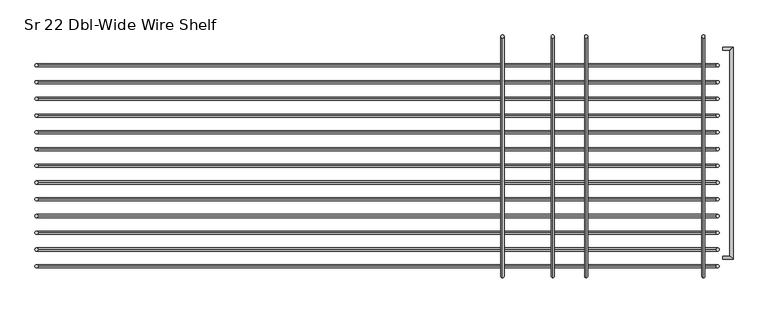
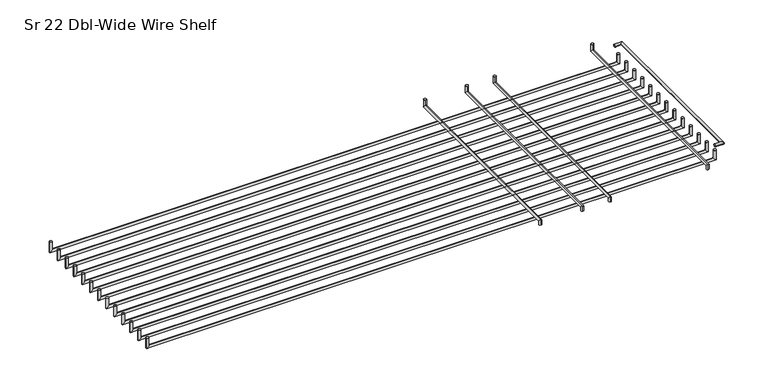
"""IFC4 building model written with IfcOpenShell, lengths in millimetres: furniture geometry, HermanMiller_Carts_CT521_CartShelf : Sr 22 Dbl-Wide Wire Shelf."""

from ifc_helpers import new_model, si_unit, frame, origin, place, context, project, spatial, circle_curve, ellipse_curve, source, transform, mapped, element, save
from ifc_brep_helpers import plane_surface, cylinder_surface, advanced_brep


def sr_22_dbl_wide_wire_shelf_5bae1492(model_context):
    return source(origin(), model_context, "Body", "AdvancedBrep", [
        advanced_brep(
        [(743.3373883, -178.26736, 2470.9501), (743.3373883, -183.04256, 2470.9501), (743.3373883, 133.81736, 2470.9501), (743.3373883, 138.59256, 2470.9501), (759.2123883, -183.04256, 2470.9501), (754.4371883, -178.26736, 2470.9501), (759.2123883, 138.59256, 2470.9501), (754.4371883, 133.81736, 2470.9501)],
        [
            (0, 1, circle_curve(frame((743.3373883, -180.65496, 2470.9501), z_axis=(-1.0, 0.0, 0.0), x_axis=(0.0, -1.0, 0.0)), 2.3876)),
            (1, 0, circle_curve(frame((743.3373883, -180.65496, 2470.9501), z_axis=(-1.0, 0.0, 0.0), x_axis=(0.0, -1.0, 0.0)), 2.3876)),
            (2, 3, circle_curve(frame((743.3373883, 136.20496, 2470.9501), z_axis=(-1.0, 0.0, 0.0), x_axis=(0.0, 1.0, 0.0)), 2.3876)),
            (3, 2, circle_curve(frame((743.3373883, 136.20496, 2470.9501), z_axis=(-1.0, 0.0, 0.0), x_axis=(0.0, 1.0, 0.0)), 2.3876)),
            (1, 4),
            (4, 5, ellipse_curve(frame((756.8247883, -180.65496, 2470.9501), z_axis=(-0.7071067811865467, -0.7071067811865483, 0.0), x_axis=(-0.7071067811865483, 0.7071067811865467, 0.0)), 3.3765763, 2.3876)),
            (5, 0),
            (5, 4, ellipse_curve(frame((756.8247883, -180.65496, 2470.9501), z_axis=(-0.7071067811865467, -0.7071067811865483, 0.0), x_axis=(-0.7071067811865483, 0.7071067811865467, 0.0)), 3.3765763, 2.3876)),
            (4, 6),
            (6, 7, ellipse_curve(frame((756.8247883, 136.20496, 2470.9501), z_axis=(0.7071067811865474, -0.7071067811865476, 0.0), x_axis=(-0.7071067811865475, -0.7071067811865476, 0.0)), 3.3765763, 2.3876)),
            (7, 5),
            (7, 6, ellipse_curve(frame((756.8247883, 136.20496, 2470.9501), z_axis=(0.7071067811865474, -0.7071067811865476, 0.0), x_axis=(-0.7071067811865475, -0.7071067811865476, 0.0)), 3.3765763, 2.3876)),
            (6, 3),
            (2, 7),
        ],
        [
            plane_surface(frame((743.3373883, -180.65496, 2470.9501), z_axis=(-1.0, 0.0, 0.0), x_axis=(0.0, 0.0, 1.0))),
            plane_surface(frame((743.3373883, 136.20496, 2470.9501), z_axis=(-1.0, 0.0, 0.0), x_axis=(0.0, 0.0, 1.0))),
            cylinder_surface(frame((743.3373883, -180.65496, 2470.9501), z_axis=(-1.0, 0.0, 0.0), x_axis=(0.0, -1.0, 0.0)), 2.3876),
            cylinder_surface(frame((756.8247883, -180.65496, 2470.9501), z_axis=(0.0, -1.0, 0.0), x_axis=(1.0, 0.0, 0.0)), 2.3876),
            cylinder_surface(frame((756.8247883, 136.20496, 2470.9501), z_axis=(1.0, 0.0, 0.0), x_axis=(0.0, 1.0, 0.0)), 2.3876),
        ],
        [
            (0, [[1, 2]]),
            (1, [[3, 4]]),
            (2, [[5, 6, 7, -2]]),
            (2, [[-7, 8, -5, -1]]),
            (3, [[9, 10, 11, -6]]),
            (3, [[-11, 12, -9, -8]]),
            (4, [[13, -3, 14, -10]]),
            (4, [[-14, -4, -13, -12]]),
        ],
    ),
        advanced_brep(
        [(733.4732983, 34.925, 2473.3377), (738.2357983, 34.925, 2473.3377), (733.4732983, 34.925, 2458.0596), (738.2357983, 34.925, 2453.2971), (-295.1886017, 34.925, 2458.0596), (-299.9511017, 34.925, 2453.2971), (-295.1886017, 34.925, 2473.3377), (-299.9511017, 34.925, 2473.3377)],
        [
            (0, 1, circle_curve(frame((735.8545483, 34.925, 2473.3377), z_axis=(0.0, 0.0, 1.0), x_axis=(1.0, 0.0, 0.0)), 2.38125)),
            (1, 0, circle_curve(frame((735.8545483, 34.925, 2473.3377), z_axis=(0.0, 0.0, 1.0), x_axis=(1.0, 0.0, 0.0)), 2.38125)),
            (0, 2),
            (2, 3, ellipse_curve(frame((735.8545483, 34.925, 2455.67835), z_axis=(0.7071067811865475, 0.0, 0.7071067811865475), x_axis=(-0.7071067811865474, 0.0, 0.7071067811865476)), 3.367596, 2.38125)),
            (3, 1),
            (3, 2, ellipse_curve(frame((735.8545483, 34.925, 2455.67835), z_axis=(0.7071067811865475, 0.0, 0.7071067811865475), x_axis=(-0.7071067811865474, 0.0, 0.7071067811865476)), 3.367596, 2.38125)),
            (2, 4),
            (4, 5, ellipse_curve(frame((-297.5698517, 34.925, 2455.67835), z_axis=(0.7071067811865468, 0.0, -0.7071067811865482), x_axis=(0.7071067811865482, 0.0, 0.7071067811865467)), 3.367596, 2.38125)),
            (5, 3),
            (5, 4, ellipse_curve(frame((-297.5698517, 34.925, 2455.67835), z_axis=(0.7071067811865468, 0.0, -0.7071067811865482), x_axis=(0.7071067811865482, 0.0, 0.7071067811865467)), 3.367596, 2.38125)),
            (6, 7, circle_curve(frame((-297.5698517, 34.925, 2473.3377), z_axis=(0.0, 0.0, 1.0), x_axis=(-1.0, 0.0, 0.0)), 2.38125)),
            (7, 6, circle_curve(frame((-297.5698517, 34.925, 2473.3377), z_axis=(0.0, 0.0, 1.0), x_axis=(-1.0, 0.0, 0.0)), 2.38125)),
            (4, 6),
            (7, 5),
        ],
        [
            plane_surface(frame((735.8545483, 34.925, 2473.3377), z_axis=(0.0, 0.0, 1.0), x_axis=(0.0, -1.0, 0.0))),
            cylinder_surface(frame((735.8545483, 34.925, 2473.3377), z_axis=(0.0, 0.0, 1.0), x_axis=(1.0, 0.0, 0.0)), 2.38125),
            cylinder_surface(frame((735.8545483, 34.925, 2455.67835), z_axis=(1.0, 0.0, 0.0), x_axis=(0.0, 0.0, -1.0)), 2.38125),
            plane_surface(frame((-297.5698517, 34.925, 2473.3377), z_axis=(0.0, 0.0, 1.0), x_axis=(0.0, -1.0, 0.0))),
            cylinder_surface(frame((-297.5698517, 34.925, 2455.67835), z_axis=(0.0, 0.0, -1.0), x_axis=(-1.0, 0.0, 0.0)), 2.38125),
        ],
        [
            (0, [[1, 2]]),
            (1, [[-1, 3, 4, 5]]),
            (1, [[-2, -5, 6, -3]]),
            (2, [[-4, 7, 8, 9]]),
            (2, [[-6, -9, 10, -7]]),
            (3, [[11, 12]]),
            (4, [[-8, 13, -12, 14]]),
            (4, [[-10, -14, -11, -13]]),
        ],
    ),
        advanced_brep(
        [(733.4732983, -15.875, 2473.3377), (738.2357983, -15.875, 2473.3377), (733.4732983, -15.875, 2458.0596), (738.2357983, -15.875, 2453.2971), (-295.1886017, -15.875, 2458.0596), (-299.9511017, -15.875, 2453.2971), (-295.1886017, -15.875, 2473.3377), (-299.9511017, -15.875, 2473.3377)],
        [
            (0, 1, circle_curve(frame((735.8545483, -15.875, 2473.3377), z_axis=(0.0, 0.0, 1.0), x_axis=(1.0, 0.0, 0.0)), 2.38125)),
            (1, 0, circle_curve(frame((735.8545483, -15.875, 2473.3377), z_axis=(0.0, 0.0, 1.0), x_axis=(1.0, 0.0, 0.0)), 2.38125)),
            (0, 2),
            (2, 3, ellipse_curve(frame((735.8545483, -15.875, 2455.67835), z_axis=(0.7071067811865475, 0.0, 0.7071067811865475), x_axis=(-0.7071067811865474, 0.0, 0.7071067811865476)), 3.367596, 2.38125)),
            (3, 1),
            (3, 2, ellipse_curve(frame((735.8545483, -15.875, 2455.67835), z_axis=(0.7071067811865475, 0.0, 0.7071067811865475), x_axis=(-0.7071067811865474, 0.0, 0.7071067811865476)), 3.367596, 2.38125)),
            (2, 4),
            (4, 5, ellipse_curve(frame((-297.5698517, -15.875, 2455.67835), z_axis=(0.7071067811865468, 0.0, -0.7071067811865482), x_axis=(0.7071067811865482, 0.0, 0.7071067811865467)), 3.367596, 2.38125)),
            (5, 3),
            (5, 4, ellipse_curve(frame((-297.5698517, -15.875, 2455.67835), z_axis=(0.7071067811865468, 0.0, -0.7071067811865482), x_axis=(0.7071067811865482, 0.0, 0.7071067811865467)), 3.367596, 2.38125)),
            (6, 7, circle_curve(frame((-297.5698517, -15.875, 2473.3377), z_axis=(0.0, 0.0, 1.0), x_axis=(-1.0, 0.0, 0.0)), 2.38125)),
            (7, 6, circle_curve(frame((-297.5698517, -15.875, 2473.3377), z_axis=(0.0, 0.0, 1.0), x_axis=(-1.0, 0.0, 0.0)), 2.38125)),
            (4, 6),
            (7, 5),
        ],
        [
            plane_surface(frame((735.8545483, -15.875, 2473.3377), z_axis=(0.0, 0.0, 1.0), x_axis=(0.0, -1.0, 0.0))),
            cylinder_surface(frame((735.8545483, -15.875, 2473.3377), z_axis=(0.0, 0.0, 1.0), x_axis=(1.0, 0.0, 0.0)), 2.38125),
            cylinder_surface(frame((735.8545483, -15.875, 2455.67835), z_axis=(1.0, 0.0, 0.0), x_axis=(0.0, 0.0, -1.0)), 2.38125),
            plane_surface(frame((-297.5698517, -15.875, 2473.3377), z_axis=(0.0, 0.0, 1.0), x_axis=(0.0, -1.0, 0.0))),
            cylinder_surface(frame((-297.5698517, -15.875, 2455.67835), z_axis=(0.0, 0.0, -1.0), x_axis=(-1.0, 0.0, 0.0)), 2.38125),
        ],
        [
            (0, [[1, 2]]),
            (1, [[-1, 3, 4, 5]]),
            (1, [[-2, -5, 6, -3]]),
            (2, [[-4, 7, 8, 9]]),
            (2, [[-6, -9, 10, -7]]),
            (3, [[11, 12]]),
            (4, [[-8, 13, -12, 14]]),
            (4, [[-10, -14, -11, -13]]),
        ],
    ),
        advanced_brep(
        [(733.4732983, -66.675, 2473.3377), (738.2357983, -66.675, 2473.3377), (733.4732983, -66.675, 2458.0596), (738.2357983, -66.675, 2453.2971), (-295.1886017, -66.675, 2458.0596), (-299.9511017, -66.675, 2453.2971), (-295.1886017, -66.675, 2473.3377), (-299.9511017, -66.675, 2473.3377)],
        [
            (0, 1, circle_curve(frame((735.8545483, -66.675, 2473.3377), z_axis=(0.0, 0.0, 1.0), x_axis=(1.0, 0.0, 0.0)), 2.38125)),
            (1, 0, circle_curve(frame((735.8545483, -66.675, 2473.3377), z_axis=(0.0, 0.0, 1.0), x_axis=(1.0, 0.0, 0.0)), 2.38125)),
            (0, 2),
            (2, 3, ellipse_curve(frame((735.8545483, -66.675, 2455.67835), z_axis=(0.7071067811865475, 0.0, 0.7071067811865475), x_axis=(-0.7071067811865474, 0.0, 0.7071067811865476)), 3.367596, 2.38125)),
            (3, 1),
            (3, 2, ellipse_curve(frame((735.8545483, -66.675, 2455.67835), z_axis=(0.7071067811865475, 0.0, 0.7071067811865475), x_axis=(-0.7071067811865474, 0.0, 0.7071067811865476)), 3.367596, 2.38125)),
            (2, 4),
            (4, 5, ellipse_curve(frame((-297.5698517, -66.675, 2455.67835), z_axis=(0.7071067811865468, 0.0, -0.7071067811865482), x_axis=(0.7071067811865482, 0.0, 0.7071067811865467)), 3.367596, 2.38125)),
            (5, 3),
            (5, 4, ellipse_curve(frame((-297.5698517, -66.675, 2455.67835), z_axis=(0.7071067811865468, 0.0, -0.7071067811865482), x_axis=(0.7071067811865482, 0.0, 0.7071067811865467)), 3.367596, 2.38125)),
            (6, 7, circle_curve(frame((-297.5698517, -66.675, 2473.3377), z_axis=(0.0, 0.0, 1.0), x_axis=(-1.0, 0.0, 0.0)), 2.38125)),
            (7, 6, circle_curve(frame((-297.5698517, -66.675, 2473.3377), z_axis=(0.0, 0.0, 1.0), x_axis=(-1.0, 0.0, 0.0)), 2.38125)),
            (4, 6),
            (7, 5),
        ],
        [
            plane_surface(frame((735.8545483, -66.675, 2473.3377), z_axis=(0.0, 0.0, 1.0), x_axis=(0.0, -1.0, 0.0))),
            cylinder_surface(frame((735.8545483, -66.675, 2473.3377), z_axis=(0.0, 0.0, 1.0), x_axis=(1.0, 0.0, 0.0)), 2.38125),
            cylinder_surface(frame((735.8545483, -66.675, 2455.67835), z_axis=(1.0, 0.0, 0.0), x_axis=(0.0, 0.0, -1.0)), 2.38125),
            plane_surface(frame((-297.5698517, -66.675, 2473.3377), z_axis=(0.0, 0.0, 1.0), x_axis=(0.0, -1.0, 0.0))),
            cylinder_surface(frame((-297.5698517, -66.675, 2455.67835), z_axis=(0.0, 0.0, -1.0), x_axis=(-1.0, 0.0, 0.0)), 2.38125),
        ],
        [
            (0, [[1, 2]]),
            (1, [[-1, 3, 4, 5]]),
            (1, [[-2, -5, 6, -3]]),
            (2, [[-4, 7, 8, 9]]),
            (2, [[-6, -9, 10, -7]]),
            (3, [[11, 12]]),
            (4, [[-8, 13, -12, 14]]),
            (4, [[-10, -14, -11, -13]]),
        ],
    ),
        advanced_brep(
        [(733.4732983, -117.475, 2473.3377), (738.2357983, -117.475, 2473.3377), (733.4732983, -117.475, 2458.0596), (738.2357983, -117.475, 2453.2971), (-295.1886017, -117.475, 2458.0596), (-299.9511017, -117.475, 2453.2971), (-295.1886017, -117.475, 2473.3377), (-299.9511017, -117.475, 2473.3377)],
        [
            (0, 1, circle_curve(frame((735.8545483, -117.475, 2473.3377), z_axis=(0.0, 0.0, 1.0), x_axis=(1.0, 0.0, 0.0)), 2.38125)),
            (1, 0, circle_curve(frame((735.8545483, -117.475, 2473.3377), z_axis=(0.0, 0.0, 1.0), x_axis=(1.0, 0.0, 0.0)), 2.38125)),
            (0, 2),
            (2, 3, ellipse_curve(frame((735.8545483, -117.475, 2455.67835), z_axis=(0.7071067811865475, 0.0, 0.7071067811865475), x_axis=(-0.7071067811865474, 0.0, 0.7071067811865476)), 3.367596, 2.38125)),
            (3, 1),
            (3, 2, ellipse_curve(frame((735.8545483, -117.475, 2455.67835), z_axis=(0.7071067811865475, 0.0, 0.7071067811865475), x_axis=(-0.7071067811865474, 0.0, 0.7071067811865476)), 3.367596, 2.38125)),
            (2, 4),
            (4, 5, ellipse_curve(frame((-297.5698517, -117.475, 2455.67835), z_axis=(0.7071067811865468, 0.0, -0.7071067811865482), x_axis=(0.7071067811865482, 0.0, 0.7071067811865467)), 3.367596, 2.38125)),
            (5, 3),
            (5, 4, ellipse_curve(frame((-297.5698517, -117.475, 2455.67835), z_axis=(0.7071067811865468, 0.0, -0.7071067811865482), x_axis=(0.7071067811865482, 0.0, 0.7071067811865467)), 3.367596, 2.38125)),
            (6, 7, circle_curve(frame((-297.5698517, -117.475, 2473.3377), z_axis=(0.0, 0.0, 1.0), x_axis=(-1.0, 0.0, 0.0)), 2.38125)),
            (7, 6, circle_curve(frame((-297.5698517, -117.475, 2473.3377), z_axis=(0.0, 0.0, 1.0), x_axis=(-1.0, 0.0, 0.0)), 2.38125)),
            (4, 6),
            (7, 5),
        ],
        [
            plane_surface(frame((735.8545483, -117.475, 2473.3377), z_axis=(0.0, 0.0, 1.0), x_axis=(0.0, -1.0, 0.0))),
            cylinder_surface(frame((735.8545483, -117.475, 2473.3377), z_axis=(0.0, 0.0, 1.0), x_axis=(1.0, 0.0, 0.0)), 2.38125),
            cylinder_surface(frame((735.8545483, -117.475, 2455.67835), z_axis=(1.0, 0.0, 0.0), x_axis=(0.0, 0.0, -1.0)), 2.38125),
            plane_surface(frame((-297.5698517, -117.475, 2473.3377), z_axis=(0.0, 0.0, 1.0), x_axis=(0.0, -1.0, 0.0))),
            cylinder_surface(frame((-297.5698517, -117.475, 2455.67835), z_axis=(0.0, 0.0, -1.0), x_axis=(-1.0, 0.0, 0.0)), 2.38125),
        ],
        [
            (0, [[1, 2]]),
            (1, [[-1, 3, 4, 5]]),
            (1, [[-2, -5, 6, -3]]),
            (2, [[-4, 7, 8, 9]]),
            (2, [[-6, -9, 10, -7]]),
            (3, [[11, 12]]),
            (4, [[-8, 13, -12, 14]]),
            (4, [[-10, -14, -11, -13]]),
        ],
    ),
        advanced_brep(
        [(733.4732983, -168.275, 2473.3377), (738.2357983, -168.275, 2473.3377), (733.4732983, -168.275, 2458.0596), (738.2357983, -168.275, 2453.2971), (-295.1886017, -168.275, 2458.0596), (-299.9511017, -168.275, 2453.2971), (-295.1886017, -168.275, 2473.3377), (-299.9511017, -168.275, 2473.3377)],
        [
            (0, 1, circle_curve(frame((735.8545483, -168.275, 2473.3377), z_axis=(0.0, 0.0, 1.0), x_axis=(1.0, 0.0, 0.0)), 2.38125)),
            (1, 0, circle_curve(frame((735.8545483, -168.275, 2473.3377), z_axis=(0.0, 0.0, 1.0), x_axis=(1.0, 0.0, 0.0)), 2.38125)),
            (0, 2),
            (2, 3, ellipse_curve(frame((735.8545483, -168.275, 2455.67835), z_axis=(0.7071067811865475, 0.0, 0.7071067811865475), x_axis=(-0.7071067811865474, 0.0, 0.7071067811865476)), 3.367596, 2.38125)),
            (3, 1),
            (3, 2, ellipse_curve(frame((735.8545483, -168.275, 2455.67835), z_axis=(0.7071067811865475, 0.0, 0.7071067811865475), x_axis=(-0.7071067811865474, 0.0, 0.7071067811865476)), 3.367596, 2.38125)),
            (2, 4),
            (4, 5, ellipse_curve(frame((-297.5698517, -168.275, 2455.67835), z_axis=(0.7071067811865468, 0.0, -0.7071067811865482), x_axis=(0.7071067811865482, 0.0, 0.7071067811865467)), 3.367596, 2.38125)),
            (5, 3),
            (5, 4, ellipse_curve(frame((-297.5698517, -168.275, 2455.67835), z_axis=(0.7071067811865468, 0.0, -0.7071067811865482), x_axis=(0.7071067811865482, 0.0, 0.7071067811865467)), 3.367596, 2.38125)),
            (6, 7, circle_curve(frame((-297.5698517, -168.275, 2473.3377), z_axis=(0.0, 0.0, 1.0), x_axis=(-1.0, 0.0, 0.0)), 2.38125)),
            (7, 6, circle_curve(frame((-297.5698517, -168.275, 2473.3377), z_axis=(0.0, 0.0, 1.0), x_axis=(-1.0, 0.0, 0.0)), 2.38125)),
            (4, 6),
            (7, 5),
        ],
        [
            plane_surface(frame((735.8545483, -168.275, 2473.3377), z_axis=(0.0, 0.0, 1.0), x_axis=(0.0, -1.0, 0.0))),
            cylinder_surface(frame((735.8545483, -168.275, 2473.3377), z_axis=(0.0, 0.0, 1.0), x_axis=(1.0, 0.0, 0.0)), 2.38125),
            cylinder_surface(frame((735.8545483, -168.275, 2455.67835), z_axis=(1.0, 0.0, 0.0), x_axis=(0.0, 0.0, -1.0)), 2.38125),
            plane_surface(frame((-297.5698517, -168.275, 2473.3377), z_axis=(0.0, 0.0, 1.0), x_axis=(0.0, -1.0, 0.0))),
            cylinder_surface(frame((-297.5698517, -168.275, 2455.67835), z_axis=(0.0, 0.0, -1.0), x_axis=(-1.0, 0.0, 0.0)), 2.38125),
        ],
        [
            (0, [[1, 2]]),
            (1, [[-1, 3, 4, 5]]),
            (1, [[-2, -5, 6, -3]]),
            (2, [[-4, 7, 8, 9]]),
            (2, [[-6, -9, 10, -7]]),
            (3, [[11, 12]]),
            (4, [[-8, 13, -12, 14]]),
            (4, [[-10, -14, -11, -13]]),
        ],
    ),
        advanced_brep(
        [(733.4732983, -193.675, 2473.3377), (738.2357983, -193.675, 2473.3377), (733.4732983, -193.675, 2458.0596), (738.2357983, -193.675, 2453.2971), (-295.1886017, -193.675, 2458.0596), (-299.9511017, -193.675, 2453.2971), (-295.1886017, -193.675, 2473.3377), (-299.9511017, -193.675, 2473.3377)],
        [
            (0, 1, circle_curve(frame((735.8545483, -193.675, 2473.3377), z_axis=(0.0, 0.0, 1.0), x_axis=(1.0, 0.0, 0.0)), 2.38125)),
            (1, 0, circle_curve(frame((735.8545483, -193.675, 2473.3377), z_axis=(0.0, 0.0, 1.0), x_axis=(1.0, 0.0, 0.0)), 2.38125)),
            (0, 2),
            (2, 3, ellipse_curve(frame((735.8545483, -193.675, 2455.67835), z_axis=(0.7071067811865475, 0.0, 0.7071067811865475), x_axis=(-0.7071067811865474, 0.0, 0.7071067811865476)), 3.367596, 2.38125)),
            (3, 1),
            (3, 2, ellipse_curve(frame((735.8545483, -193.675, 2455.67835), z_axis=(0.7071067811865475, 0.0, 0.7071067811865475), x_axis=(-0.7071067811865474, 0.0, 0.7071067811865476)), 3.367596, 2.38125)),
            (2, 4),
            (4, 5, ellipse_curve(frame((-297.5698517, -193.675, 2455.67835), z_axis=(0.7071067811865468, 0.0, -0.7071067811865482), x_axis=(0.7071067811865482, 0.0, 0.7071067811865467)), 3.367596, 2.38125)),
            (5, 3),
            (5, 4, ellipse_curve(frame((-297.5698517, -193.675, 2455.67835), z_axis=(0.7071067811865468, 0.0, -0.7071067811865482), x_axis=(0.7071067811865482, 0.0, 0.7071067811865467)), 3.367596, 2.38125)),
            (6, 7, circle_curve(frame((-297.5698517, -193.675, 2473.3377), z_axis=(0.0, 0.0, 1.0), x_axis=(-1.0, 0.0, 0.0)), 2.38125)),
            (7, 6, circle_curve(frame((-297.5698517, -193.675, 2473.3377), z_axis=(0.0, 0.0, 1.0), x_axis=(-1.0, 0.0, 0.0)), 2.38125)),
            (4, 6),
            (7, 5),
        ],
        [
            plane_surface(frame((735.8545483, -193.675, 2473.3377), z_axis=(0.0, 0.0, 1.0), x_axis=(0.0, -1.0, 0.0))),
            cylinder_surface(frame((735.8545483, -193.675, 2473.3377), z_axis=(0.0, 0.0, 1.0), x_axis=(1.0, 0.0, 0.0)), 2.38125),
            cylinder_surface(frame((735.8545483, -193.675, 2455.67835), z_axis=(1.0, 0.0, 0.0), x_axis=(0.0, 0.0, -1.0)), 2.38125),
            plane_surface(frame((-297.5698517, -193.675, 2473.3377), z_axis=(0.0, 0.0, 1.0), x_axis=(0.0, -1.0, 0.0))),
            cylinder_surface(frame((-297.5698517, -193.675, 2455.67835), z_axis=(0.0, 0.0, -1.0), x_axis=(-1.0, 0.0, 0.0)), 2.38125),
        ],
        [
            (0, [[1, 2]]),
            (1, [[-1, 3, 4, 5]]),
            (1, [[-2, -5, 6, -3]]),
            (2, [[-4, 7, 8, 9]]),
            (2, [[-6, -9, 10, -7]]),
            (3, [[11, 12]]),
            (4, [[-8, 13, -12, 14]]),
            (4, [[-10, -14, -11, -13]]),
        ],
    ),
        advanced_brep(
        [(733.4732983, -142.875, 2473.3377), (738.2357983, -142.875, 2473.3377), (733.4732983, -142.875, 2458.0596), (738.2357983, -142.875, 2453.2971), (-295.1886017, -142.875, 2458.0596), (-299.9511017, -142.875, 2453.2971), (-295.1886017, -142.875, 2473.3377), (-299.9511017, -142.875, 2473.3377)],
        [
            (0, 1, circle_curve(frame((735.8545483, -142.875, 2473.3377), z_axis=(0.0, 0.0, 1.0), x_axis=(1.0, 0.0, 0.0)), 2.38125)),
            (1, 0, circle_curve(frame((735.8545483, -142.875, 2473.3377), z_axis=(0.0, 0.0, 1.0), x_axis=(1.0, 0.0, 0.0)), 2.38125)),
            (0, 2),
            (2, 3, ellipse_curve(frame((735.8545483, -142.875, 2455.67835), z_axis=(0.7071067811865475, 0.0, 0.7071067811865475), x_axis=(-0.7071067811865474, 0.0, 0.7071067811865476)), 3.367596, 2.38125)),
            (3, 1),
            (3, 2, ellipse_curve(frame((735.8545483, -142.875, 2455.67835), z_axis=(0.7071067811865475, 0.0, 0.7071067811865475), x_axis=(-0.7071067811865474, 0.0, 0.7071067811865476)), 3.367596, 2.38125)),
            (2, 4),
            (4, 5, ellipse_curve(frame((-297.5698517, -142.875, 2455.67835), z_axis=(0.7071067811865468, 0.0, -0.7071067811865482), x_axis=(0.7071067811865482, 0.0, 0.7071067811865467)), 3.367596, 2.38125)),
            (5, 3),
            (5, 4, ellipse_curve(frame((-297.5698517, -142.875, 2455.67835), z_axis=(0.7071067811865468, 0.0, -0.7071067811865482), x_axis=(0.7071067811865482, 0.0, 0.7071067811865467)), 3.367596, 2.38125)),
            (6, 7, circle_curve(frame((-297.5698517, -142.875, 2473.3377), z_axis=(0.0, 0.0, 1.0), x_axis=(-1.0, 0.0, 0.0)), 2.38125)),
            (7, 6, circle_curve(frame((-297.5698517, -142.875, 2473.3377), z_axis=(0.0, 0.0, 1.0), x_axis=(-1.0, 0.0, 0.0)), 2.38125)),
            (4, 6),
            (7, 5),
        ],
        [
            plane_surface(frame((735.8545483, -142.875, 2473.3377), z_axis=(0.0, 0.0, 1.0), x_axis=(0.0, -1.0, 0.0))),
            cylinder_surface(frame((735.8545483, -142.875, 2473.3377), z_axis=(0.0, 0.0, 1.0), x_axis=(1.0, 0.0, 0.0)), 2.38125),
            cylinder_surface(frame((735.8545483, -142.875, 2455.67835), z_axis=(1.0, 0.0, 0.0), x_axis=(0.0, 0.0, -1.0)), 2.38125),
            plane_surface(frame((-297.5698517, -142.875, 2473.3377), z_axis=(0.0, 0.0, 1.0), x_axis=(0.0, -1.0, 0.0))),
            cylinder_surface(frame((-297.5698517, -142.875, 2455.67835), z_axis=(0.0, 0.0, -1.0), x_axis=(-1.0, 0.0, 0.0)), 2.38125),
        ],
        [
            (0, [[1, 2]]),
            (1, [[-1, 3, 4, 5]]),
            (1, [[-2, -5, 6, -3]]),
            (2, [[-4, 7, 8, 9]]),
            (2, [[-6, -9, 10, -7]]),
            (3, [[11, 12]]),
            (4, [[-8, 13, -12, 14]]),
            (4, [[-10, -14, -11, -13]]),
        ],
    ),
        advanced_brep(
        [(733.4732983, -92.075, 2473.3377), (738.2357983, -92.075, 2473.3377), (733.4732983, -92.075, 2458.0596), (738.2357983, -92.075, 2453.2971), (-295.1886017, -92.075, 2458.0596), (-299.9511017, -92.075, 2453.2971), (-295.1886017, -92.075, 2473.3377), (-299.9511017, -92.075, 2473.3377)],
        [
            (0, 1, circle_curve(frame((735.8545483, -92.075, 2473.3377), z_axis=(0.0, 0.0, 1.0), x_axis=(1.0, 0.0, 0.0)), 2.38125)),
            (1, 0, circle_curve(frame((735.8545483, -92.075, 2473.3377), z_axis=(0.0, 0.0, 1.0), x_axis=(1.0, 0.0, 0.0)), 2.38125)),
            (0, 2),
            (2, 3, ellipse_curve(frame((735.8545483, -92.075, 2455.67835), z_axis=(0.7071067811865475, 0.0, 0.7071067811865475), x_axis=(-0.7071067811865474, 0.0, 0.7071067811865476)), 3.367596, 2.38125)),
            (3, 1),
            (3, 2, ellipse_curve(frame((735.8545483, -92.075, 2455.67835), z_axis=(0.7071067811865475, 0.0, 0.7071067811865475), x_axis=(-0.7071067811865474, 0.0, 0.7071067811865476)), 3.367596, 2.38125)),
            (2, 4),
            (4, 5, ellipse_curve(frame((-297.5698517, -92.075, 2455.67835), z_axis=(0.7071067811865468, 0.0, -0.7071067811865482), x_axis=(0.7071067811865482, 0.0, 0.7071067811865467)), 3.367596, 2.38125)),
            (5, 3),
            (5, 4, ellipse_curve(frame((-297.5698517, -92.075, 2455.67835), z_axis=(0.7071067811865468, 0.0, -0.7071067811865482), x_axis=(0.7071067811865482, 0.0, 0.7071067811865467)), 3.367596, 2.38125)),
            (6, 7, circle_curve(frame((-297.5698517, -92.075, 2473.3377), z_axis=(0.0, 0.0, 1.0), x_axis=(-1.0, 0.0, 0.0)), 2.38125)),
            (7, 6, circle_curve(frame((-297.5698517, -92.075, 2473.3377), z_axis=(0.0, 0.0, 1.0), x_axis=(-1.0, 0.0, 0.0)), 2.38125)),
            (4, 6),
            (7, 5),
        ],
        [
            plane_surface(frame((735.8545483, -92.075, 2473.3377), z_axis=(0.0, 0.0, 1.0), x_axis=(0.0, -1.0, 0.0))),
            cylinder_surface(frame((735.8545483, -92.075, 2473.3377), z_axis=(0.0, 0.0, 1.0), x_axis=(1.0, 0.0, 0.0)), 2.38125),
            cylinder_surface(frame((735.8545483, -92.075, 2455.67835), z_axis=(1.0, 0.0, 0.0), x_axis=(0.0, 0.0, -1.0)), 2.38125),
            plane_surface(frame((-297.5698517, -92.075, 2473.3377), z_axis=(0.0, 0.0, 1.0), x_axis=(0.0, -1.0, 0.0))),
            cylinder_surface(frame((-297.5698517, -92.075, 2455.67835), z_axis=(0.0, 0.0, -1.0), x_axis=(-1.0, 0.0, 0.0)), 2.38125),
        ],
        [
            (0, [[1, 2]]),
            (1, [[-1, 3, 4, 5]]),
            (1, [[-2, -5, 6, -3]]),
            (2, [[-4, 7, 8, 9]]),
            (2, [[-6, -9, 10, -7]]),
            (3, [[11, 12]]),
            (4, [[-8, 13, -12, 14]]),
            (4, [[-10, -14, -11, -13]]),
        ],
    ),
        advanced_brep(
        [(733.4732983, -41.275, 2473.3377), (738.2357983, -41.275, 2473.3377), (733.4732983, -41.275, 2458.0596), (738.2357983, -41.275, 2453.2971), (-295.1886017, -41.275, 2458.0596), (-299.9511017, -41.275, 2453.2971), (-295.1886017, -41.275, 2473.3377), (-299.9511017, -41.275, 2473.3377)],
        [
            (0, 1, circle_curve(frame((735.8545483, -41.275, 2473.3377), z_axis=(0.0, 0.0, 1.0), x_axis=(1.0, 0.0, 0.0)), 2.38125)),
            (1, 0, circle_curve(frame((735.8545483, -41.275, 2473.3377), z_axis=(0.0, 0.0, 1.0), x_axis=(1.0, 0.0, 0.0)), 2.38125)),
            (0, 2),
            (2, 3, ellipse_curve(frame((735.8545483, -41.275, 2455.67835), z_axis=(0.7071067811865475, 0.0, 0.7071067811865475), x_axis=(-0.7071067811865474, 0.0, 0.7071067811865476)), 3.367596, 2.38125)),
            (3, 1),
            (3, 2, ellipse_curve(frame((735.8545483, -41.275, 2455.67835), z_axis=(0.7071067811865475, 0.0, 0.7071067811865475), x_axis=(-0.7071067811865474, 0.0, 0.7071067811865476)), 3.367596, 2.38125)),
            (2, 4),
            (4, 5, ellipse_curve(frame((-297.5698517, -41.275, 2455.67835), z_axis=(0.7071067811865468, 0.0, -0.7071067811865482), x_axis=(0.7071067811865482, 0.0, 0.7071067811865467)), 3.367596, 2.38125)),
            (5, 3),
            (5, 4, ellipse_curve(frame((-297.5698517, -41.275, 2455.67835), z_axis=(0.7071067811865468, 0.0, -0.7071067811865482), x_axis=(0.7071067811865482, 0.0, 0.7071067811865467)), 3.367596, 2.38125)),
            (6, 7, circle_curve(frame((-297.5698517, -41.275, 2473.3377), z_axis=(0.0, 0.0, 1.0), x_axis=(-1.0, 0.0, 0.0)), 2.38125)),
            (7, 6, circle_curve(frame((-297.5698517, -41.275, 2473.3377), z_axis=(0.0, 0.0, 1.0), x_axis=(-1.0, 0.0, 0.0)), 2.38125)),
            (4, 6),
            (7, 5),
        ],
        [
            plane_surface(frame((735.8545483, -41.275, 2473.3377), z_axis=(0.0, 0.0, 1.0), x_axis=(0.0, -1.0, 0.0))),
            cylinder_surface(frame((735.8545483, -41.275, 2473.3377), z_axis=(0.0, 0.0, 1.0), x_axis=(1.0, 0.0, 0.0)), 2.38125),
            cylinder_surface(frame((735.8545483, -41.275, 2455.67835), z_axis=(1.0, 0.0, 0.0), x_axis=(0.0, 0.0, -1.0)), 2.38125),
            plane_surface(frame((-297.5698517, -41.275, 2473.3377), z_axis=(0.0, 0.0, 1.0), x_axis=(0.0, -1.0, 0.0))),
            cylinder_surface(frame((-297.5698517, -41.275, 2455.67835), z_axis=(0.0, 0.0, -1.0), x_axis=(-1.0, 0.0, 0.0)), 2.38125),
        ],
        [
            (0, [[1, 2]]),
            (1, [[-1, 3, 4, 5]]),
            (1, [[-2, -5, 6, -3]]),
            (2, [[-4, 7, 8, 9]]),
            (2, [[-6, -9, 10, -7]]),
            (3, [[11, 12]]),
            (4, [[-8, 13, -12, 14]]),
            (4, [[-10, -14, -11, -13]]),
        ],
    ),
        advanced_brep(
        [(733.4732983, 9.525, 2473.3377), (738.2357983, 9.525, 2473.3377), (733.4732983, 9.525, 2458.0596), (738.2357983, 9.525, 2453.2971), (-295.1886017, 9.525, 2458.0596), (-299.9511017, 9.525, 2453.2971), (-295.1886017, 9.525, 2473.3377), (-299.9511017, 9.525, 2473.3377)],
        [
            (0, 1, circle_curve(frame((735.8545483, 9.525, 2473.3377), z_axis=(0.0, 0.0, 1.0), x_axis=(1.0, 0.0, 0.0)), 2.38125)),
            (1, 0, circle_curve(frame((735.8545483, 9.525, 2473.3377), z_axis=(0.0, 0.0, 1.0), x_axis=(1.0, 0.0, 0.0)), 2.38125)),
            (0, 2),
            (2, 3, ellipse_curve(frame((735.8545483, 9.525, 2455.67835), z_axis=(0.7071067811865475, 0.0, 0.7071067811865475), x_axis=(-0.7071067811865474, 0.0, 0.7071067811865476)), 3.367596, 2.38125)),
            (3, 1),
            (3, 2, ellipse_curve(frame((735.8545483, 9.525, 2455.67835), z_axis=(0.7071067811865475, 0.0, 0.7071067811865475), x_axis=(-0.7071067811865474, 0.0, 0.7071067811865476)), 3.367596, 2.38125)),
            (2, 4),
            (4, 5, ellipse_curve(frame((-297.5698517, 9.525, 2455.67835), z_axis=(0.7071067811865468, 0.0, -0.7071067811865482), x_axis=(0.7071067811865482, 0.0, 0.7071067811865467)), 3.367596, 2.38125)),
            (5, 3),
            (5, 4, ellipse_curve(frame((-297.5698517, 9.525, 2455.67835), z_axis=(0.7071067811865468, 0.0, -0.7071067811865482), x_axis=(0.7071067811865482, 0.0, 0.7071067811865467)), 3.367596, 2.38125)),
            (6, 7, circle_curve(frame((-297.5698517, 9.525, 2473.3377), z_axis=(0.0, 0.0, 1.0), x_axis=(-1.0, 0.0, 0.0)), 2.38125)),
            (7, 6, circle_curve(frame((-297.5698517, 9.525, 2473.3377), z_axis=(0.0, 0.0, 1.0), x_axis=(-1.0, 0.0, 0.0)), 2.38125)),
            (4, 6),
            (7, 5),
        ],
        [
            plane_surface(frame((735.8545483, 9.525, 2473.3377), z_axis=(0.0, 0.0, 1.0), x_axis=(0.0, -1.0, 0.0))),
            cylinder_surface(frame((735.8545483, 9.525, 2473.3377), z_axis=(0.0, 0.0, 1.0), x_axis=(1.0, 0.0, 0.0)), 2.38125),
            cylinder_surface(frame((735.8545483, 9.525, 2455.67835), z_axis=(1.0, 0.0, 0.0), x_axis=(0.0, 0.0, -1.0)), 2.38125),
            plane_surface(frame((-297.5698517, 9.525, 2473.3377), z_axis=(0.0, 0.0, 1.0), x_axis=(0.0, -1.0, 0.0))),
            cylinder_surface(frame((-297.5698517, 9.525, 2455.67835), z_axis=(0.0, 0.0, -1.0), x_axis=(-1.0, 0.0, 0.0)), 2.38125),
        ],
        [
            (0, [[1, 2]]),
            (1, [[-1, 3, 4, 5]]),
            (1, [[-2, -5, 6, -3]]),
            (2, [[-4, 7, 8, 9]]),
            (2, [[-6, -9, 10, -7]]),
            (3, [[11, 12]]),
            (4, [[-8, 13, -12, 14]]),
            (4, [[-10, -14, -11, -13]]),
        ],
    ),
        advanced_brep(
        [(733.4732983, 60.325, 2473.3377), (738.2357983, 60.325, 2473.3377), (733.4732983, 60.325, 2458.0596), (738.2357983, 60.325, 2453.2971), (-295.1886017, 60.325, 2458.0596), (-299.9511017, 60.325, 2453.2971), (-295.1886017, 60.325, 2473.3377), (-299.9511017, 60.325, 2473.3377)],
        [
            (0, 1, circle_curve(frame((735.8545483, 60.325, 2473.3377), z_axis=(0.0, 0.0, 1.0), x_axis=(1.0, 0.0, 0.0)), 2.38125)),
            (1, 0, circle_curve(frame((735.8545483, 60.325, 2473.3377), z_axis=(0.0, 0.0, 1.0), x_axis=(1.0, 0.0, 0.0)), 2.38125)),
            (0, 2),
            (2, 3, ellipse_curve(frame((735.8545483, 60.325, 2455.67835), z_axis=(0.7071067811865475, 0.0, 0.7071067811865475), x_axis=(-0.7071067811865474, 0.0, 0.7071067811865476)), 3.367596, 2.38125)),
            (3, 1),
            (3, 2, ellipse_curve(frame((735.8545483, 60.325, 2455.67835), z_axis=(0.7071067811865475, 0.0, 0.7071067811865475), x_axis=(-0.7071067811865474, 0.0, 0.7071067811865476)), 3.367596, 2.38125)),
            (2, 4),
            (4, 5, ellipse_curve(frame((-297.5698517, 60.325, 2455.67835), z_axis=(0.7071067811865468, 0.0, -0.7071067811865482), x_axis=(0.7071067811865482, 0.0, 0.7071067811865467)), 3.367596, 2.38125)),
            (5, 3),
            (5, 4, ellipse_curve(frame((-297.5698517, 60.325, 2455.67835), z_axis=(0.7071067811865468, 0.0, -0.7071067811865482), x_axis=(0.7071067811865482, 0.0, 0.7071067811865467)), 3.367596, 2.38125)),
            (6, 7, circle_curve(frame((-297.5698517, 60.325, 2473.3377), z_axis=(0.0, 0.0, 1.0), x_axis=(-1.0, 0.0, 0.0)), 2.38125)),
            (7, 6, circle_curve(frame((-297.5698517, 60.325, 2473.3377), z_axis=(0.0, 0.0, 1.0), x_axis=(-1.0, 0.0, 0.0)), 2.38125)),
            (4, 6),
            (7, 5),
        ],
        [
            plane_surface(frame((735.8545483, 60.325, 2473.3377), z_axis=(0.0, 0.0, 1.0), x_axis=(0.0, -1.0, 0.0))),
            cylinder_surface(frame((735.8545483, 60.325, 2473.3377), z_axis=(0.0, 0.0, 1.0), x_axis=(1.0, 0.0, 0.0)), 2.38125),
            cylinder_surface(frame((735.8545483, 60.325, 2455.67835), z_axis=(1.0, 0.0, 0.0), x_axis=(0.0, 0.0, -1.0)), 2.38125),
            plane_surface(frame((-297.5698517, 60.325, 2473.3377), z_axis=(0.0, 0.0, 1.0), x_axis=(0.0, -1.0, 0.0))),
            cylinder_surface(frame((-297.5698517, 60.325, 2455.67835), z_axis=(0.0, 0.0, -1.0), x_axis=(-1.0, 0.0, 0.0)), 2.38125),
        ],
        [
            (0, [[1, 2]]),
            (1, [[-1, 3, 4, 5]]),
            (1, [[-2, -5, 6, -3]]),
            (2, [[-4, 7, 8, 9]]),
            (2, [[-6, -9, 10, -7]]),
            (3, [[11, 12]]),
            (4, [[-8, 13, -12, 14]]),
            (4, [[-10, -14, -11, -13]]),
        ],
    ),
        advanced_brep(
        [(733.4732983, 85.725, 2473.3377), (738.2357983, 85.725, 2473.3377), (733.4732983, 85.725, 2458.0596), (738.2357983, 85.725, 2453.2971), (-295.1886017, 85.725, 2458.0596), (-299.9511017, 85.725, 2453.2971), (-295.1886017, 85.725, 2473.3377), (-299.9511017, 85.725, 2473.3377)],
        [
            (0, 1, circle_curve(frame((735.8545483, 85.725, 2473.3377), z_axis=(0.0, 0.0, 1.0), x_axis=(1.0, 0.0, 0.0)), 2.38125)),
            (1, 0, circle_curve(frame((735.8545483, 85.725, 2473.3377), z_axis=(0.0, 0.0, 1.0), x_axis=(1.0, 0.0, 0.0)), 2.38125)),
            (0, 2),
            (2, 3, ellipse_curve(frame((735.8545483, 85.725, 2455.67835), z_axis=(0.7071067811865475, 0.0, 0.7071067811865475), x_axis=(-0.7071067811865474, 0.0, 0.7071067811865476)), 3.367596, 2.38125)),
            (3, 1),
            (3, 2, ellipse_curve(frame((735.8545483, 85.725, 2455.67835), z_axis=(0.7071067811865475, 0.0, 0.7071067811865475), x_axis=(-0.7071067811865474, 0.0, 0.7071067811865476)), 3.367596, 2.38125)),
            (2, 4),
            (4, 5, ellipse_curve(frame((-297.5698517, 85.725, 2455.67835), z_axis=(0.7071067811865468, 0.0, -0.7071067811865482), x_axis=(0.7071067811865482, 0.0, 0.7071067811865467)), 3.367596, 2.38125)),
            (5, 3),
            (5, 4, ellipse_curve(frame((-297.5698517, 85.725, 2455.67835), z_axis=(0.7071067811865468, 0.0, -0.7071067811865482), x_axis=(0.7071067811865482, 0.0, 0.7071067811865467)), 3.367596, 2.38125)),
            (6, 7, circle_curve(frame((-297.5698517, 85.725, 2473.3377), z_axis=(0.0, 0.0, 1.0), x_axis=(-1.0, 0.0, 0.0)), 2.38125)),
            (7, 6, circle_curve(frame((-297.5698517, 85.725, 2473.3377), z_axis=(0.0, 0.0, 1.0), x_axis=(-1.0, 0.0, 0.0)), 2.38125)),
            (4, 6),
            (7, 5),
        ],
        [
            plane_surface(frame((735.8545483, 85.725, 2473.3377), z_axis=(0.0, 0.0, 1.0), x_axis=(0.0, -1.0, 0.0))),
            cylinder_surface(frame((735.8545483, 85.725, 2473.3377), z_axis=(0.0, 0.0, 1.0), x_axis=(1.0, 0.0, 0.0)), 2.38125),
            cylinder_surface(frame((735.8545483, 85.725, 2455.67835), z_axis=(1.0, 0.0, 0.0), x_axis=(0.0, 0.0, -1.0)), 2.38125),
            plane_surface(frame((-297.5698517, 85.725, 2473.3377), z_axis=(0.0, 0.0, 1.0), x_axis=(0.0, -1.0, 0.0))),
            cylinder_surface(frame((-297.5698517, 85.725, 2455.67835), z_axis=(0.0, 0.0, -1.0), x_axis=(-1.0, 0.0, 0.0)), 2.38125),
        ],
        [
            (0, [[1, 2]]),
            (1, [[-1, 3, 4, 5]]),
            (1, [[-2, -5, 6, -3]]),
            (2, [[-4, 7, 8, 9]]),
            (2, [[-6, -9, 10, -7]]),
            (3, [[11, 12]]),
            (4, [[-8, 13, -12, 14]]),
            (4, [[-10, -14, -11, -13]]),
        ],
    ),
        advanced_brep(
        [(733.4732983, 111.125, 2473.3377), (738.2357983, 111.125, 2473.3377), (733.4732983, 111.125, 2458.0596), (738.2357983, 111.125, 2453.2971), (-295.1886017, 111.125, 2458.0596), (-299.9511017, 111.125, 2453.2971), (-295.1886017, 111.125, 2473.3377), (-299.9511017, 111.125, 2473.3377)],
        [
            (0, 1, circle_curve(frame((735.8545483, 111.125, 2473.3377), z_axis=(0.0, 0.0, 1.0), x_axis=(1.0, 0.0, 0.0)), 2.38125)),
            (1, 0, circle_curve(frame((735.8545483, 111.125, 2473.3377), z_axis=(0.0, 0.0, 1.0), x_axis=(1.0, 0.0, 0.0)), 2.38125)),
            (0, 2),
            (2, 3, ellipse_curve(frame((735.8545483, 111.125, 2455.67835), z_axis=(0.7071067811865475, 0.0, 0.7071067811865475), x_axis=(-0.7071067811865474, 0.0, 0.7071067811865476)), 3.367596, 2.38125)),
            (3, 1),
            (3, 2, ellipse_curve(frame((735.8545483, 111.125, 2455.67835), z_axis=(0.7071067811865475, 0.0, 0.7071067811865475), x_axis=(-0.7071067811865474, 0.0, 0.7071067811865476)), 3.367596, 2.38125)),
            (2, 4),
            (4, 5, ellipse_curve(frame((-297.5698517, 111.125, 2455.67835), z_axis=(0.7071067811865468, 0.0, -0.7071067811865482), x_axis=(0.7071067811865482, 0.0, 0.7071067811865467)), 3.367596, 2.38125)),
            (5, 3),
            (5, 4, ellipse_curve(frame((-297.5698517, 111.125, 2455.67835), z_axis=(0.7071067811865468, 0.0, -0.7071067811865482), x_axis=(0.7071067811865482, 0.0, 0.7071067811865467)), 3.367596, 2.38125)),
            (6, 7, circle_curve(frame((-297.5698517, 111.125, 2473.3377), z_axis=(0.0, 0.0, 1.0), x_axis=(-1.0, 0.0, 0.0)), 2.38125)),
            (7, 6, circle_curve(frame((-297.5698517, 111.125, 2473.3377), z_axis=(0.0, 0.0, 1.0), x_axis=(-1.0, 0.0, 0.0)), 2.38125)),
            (4, 6),
            (7, 5),
        ],
        [
            plane_surface(frame((735.8545483, 111.125, 2473.3377), z_axis=(0.0, 0.0, 1.0), x_axis=(0.0, -1.0, 0.0))),
            cylinder_surface(frame((735.8545483, 111.125, 2473.3377), z_axis=(0.0, 0.0, 1.0), x_axis=(1.0, 0.0, 0.0)), 2.38125),
            cylinder_surface(frame((735.8545483, 111.125, 2455.67835), z_axis=(1.0, 0.0, 0.0), x_axis=(0.0, 0.0, -1.0)), 2.38125),
            plane_surface(frame((-297.5698517, 111.125, 2473.3377), z_axis=(0.0, 0.0, 1.0), x_axis=(0.0, -1.0, 0.0))),
            cylinder_surface(frame((-297.5698517, 111.125, 2455.67835), z_axis=(0.0, 0.0, -1.0), x_axis=(-1.0, 0.0, 0.0)), 2.38125),
        ],
        [
            (0, [[1, 2]]),
            (1, [[-1, 3, 4, 5]]),
            (1, [[-2, -5, 6, -3]]),
            (2, [[-4, 7, 8, 9]]),
            (2, [[-6, -9, 10, -7]]),
            (3, [[11, 12]]),
            (4, [[-8, 13, -12, 14]]),
            (4, [[-10, -14, -11, -13]]),
        ],
    ),
        advanced_brep(
        [(714.1223083, -206.38135, 2453.2971), (714.1223083, -211.14385, 2453.2971), (714.1223083, -206.38135, 2458.0596), (714.1223083, -211.14385, 2462.8221), (714.1223083, 157.2983379, 2458.0596), (714.1223083, 152.5358379, 2462.8221), (714.1223083, 157.2983379, 2473.3377), (714.1223083, 152.5358379, 2473.3377)],
        [
            (0, 1, circle_curve(frame((714.1223083, -208.7626, 2453.2971), z_axis=(0.0, 0.0, -1.0), x_axis=(0.0, -1.0, 0.0)), 2.38125)),
            (1, 0, circle_curve(frame((714.1223083, -208.7626, 2453.2971), z_axis=(0.0, 0.0, -1.0), x_axis=(0.0, -1.0, 0.0)), 2.38125)),
            (0, 2),
            (2, 3, ellipse_curve(frame((714.1223083, -208.7626, 2460.44085), z_axis=(0.0, -0.7071067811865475, -0.7071067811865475), x_axis=(0.0, 0.7071067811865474, -0.7071067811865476)), 3.367596, 2.38125)),
            (3, 1),
            (3, 2, ellipse_curve(frame((714.1223083, -208.7626, 2460.44085), z_axis=(0.0, -0.7071067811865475, -0.7071067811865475), x_axis=(0.0, 0.7071067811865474, -0.7071067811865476)), 3.367596, 2.38125)),
            (2, 4),
            (4, 5, ellipse_curve(frame((714.1223083, 154.9170879, 2460.44085), z_axis=(0.0, -0.7071067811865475, -0.7071067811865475), x_axis=(0.0, -0.7071067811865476, 0.7071067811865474)), 3.367596, 2.38125)),
            (5, 3),
            (5, 4, ellipse_curve(frame((714.1223083, 154.9170879, 2460.44085), z_axis=(0.0, -0.7071067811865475, -0.7071067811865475), x_axis=(0.0, -0.7071067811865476, 0.7071067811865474)), 3.367596, 2.38125)),
            (6, 7, circle_curve(frame((714.1223083, 154.9170879, 2473.3377), z_axis=(0.0, 0.0, 1.0), x_axis=(0.0, -1.0, 0.0)), 2.38125)),
            (7, 6, circle_curve(frame((714.1223083, 154.9170879, 2473.3377), z_axis=(0.0, 0.0, 1.0), x_axis=(0.0, -1.0, 0.0)), 2.38125)),
            (4, 6),
            (7, 5),
        ],
        [
            plane_surface(frame((714.1223083, -208.7626, 2453.2971), z_axis=(0.0, 0.0, -1.0), x_axis=(1.0, 0.0, 0.0))),
            cylinder_surface(frame((714.1223083, -208.7626, 2453.2971), z_axis=(0.0, 0.0, -1.0), x_axis=(0.0, -1.0, 0.0)), 2.38125),
            cylinder_surface(frame((714.1223083, -208.7626, 2460.44085), z_axis=(0.0, -1.0, 0.0), x_axis=(0.0, 0.0, 1.0)), 2.38125),
            plane_surface(frame((714.1223083, 154.9170879, 2473.3377), z_axis=(0.0, 0.0, 1.0), x_axis=(1.0, 0.0, 0.0))),
            cylinder_surface(frame((714.1223083, 154.9170879, 2460.44085), z_axis=(0.0, 0.0, -1.0), x_axis=(0.0, -1.0, 0.0)), 2.38125),
        ],
        [
            (0, [[1, 2]]),
            (1, [[-1, 3, 4, 5]]),
            (1, [[-2, -5, 6, -3]]),
            (2, [[-4, 7, 8, 9]]),
            (2, [[-6, -9, 10, -7]]),
            (3, [[11, 12]]),
            (4, [[-8, 13, -12, 14]]),
            (4, [[-10, -14, -11, -13]]),
        ],
    ),
        advanced_brep(
        [(409.3223083, -206.38135, 2453.2971), (409.3223083, -211.14385, 2453.2971), (409.3223083, -206.38135, 2458.0596), (409.3223083, -211.14385, 2462.8221), (409.3223083, 157.2983379, 2458.0596), (409.3223083, 152.5358379, 2462.8221), (409.3223083, 157.2983379, 2473.3377), (409.3223083, 152.5358379, 2473.3377)],
        [
            (0, 1, circle_curve(frame((409.3223083, -208.7626, 2453.2971), z_axis=(0.0, 0.0, -1.0), x_axis=(0.0, -1.0, 0.0)), 2.38125)),
            (1, 0, circle_curve(frame((409.3223083, -208.7626, 2453.2971), z_axis=(0.0, 0.0, -1.0), x_axis=(0.0, -1.0, 0.0)), 2.38125)),
            (0, 2),
            (2, 3, ellipse_curve(frame((409.3223083, -208.7626, 2460.44085), z_axis=(0.0, -0.7071067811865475, -0.7071067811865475), x_axis=(0.0, 0.7071067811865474, -0.7071067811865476)), 3.367596, 2.38125)),
            (3, 1),
            (3, 2, ellipse_curve(frame((409.3223083, -208.7626, 2460.44085), z_axis=(0.0, -0.7071067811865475, -0.7071067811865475), x_axis=(0.0, 0.7071067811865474, -0.7071067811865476)), 3.367596, 2.38125)),
            (2, 4),
            (4, 5, ellipse_curve(frame((409.3223083, 154.9170879, 2460.44085), z_axis=(0.0, -0.7071067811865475, -0.7071067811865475), x_axis=(0.0, -0.7071067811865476, 0.7071067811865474)), 3.367596, 2.38125)),
            (5, 3),
            (5, 4, ellipse_curve(frame((409.3223083, 154.9170879, 2460.44085), z_axis=(0.0, -0.7071067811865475, -0.7071067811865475), x_axis=(0.0, -0.7071067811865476, 0.7071067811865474)), 3.367596, 2.38125)),
            (6, 7, circle_curve(frame((409.3223083, 154.9170879, 2473.3377), z_axis=(0.0, 0.0, 1.0), x_axis=(0.0, -1.0, 0.0)), 2.38125)),
            (7, 6, circle_curve(frame((409.3223083, 154.9170879, 2473.3377), z_axis=(0.0, 0.0, 1.0), x_axis=(0.0, -1.0, 0.0)), 2.38125)),
            (4, 6),
            (7, 5),
        ],
        [
            plane_surface(frame((409.3223083, -208.7626, 2453.2971), z_axis=(0.0, 0.0, -1.0), x_axis=(1.0, 0.0, 0.0))),
            cylinder_surface(frame((409.3223083, -208.7626, 2453.2971), z_axis=(0.0, 0.0, -1.0), x_axis=(0.0, -1.0, 0.0)), 2.38125),
            cylinder_surface(frame((409.3223083, -208.7626, 2460.44085), z_axis=(0.0, -1.0, 0.0), x_axis=(0.0, 0.0, 1.0)), 2.38125),
            plane_surface(frame((409.3223083, 154.9170879, 2473.3377), z_axis=(0.0, 0.0, 1.0), x_axis=(1.0, 0.0, 0.0))),
            cylinder_surface(frame((409.3223083, 154.9170879, 2460.44085), z_axis=(0.0, 0.0, -1.0), x_axis=(0.0, -1.0, 0.0)), 2.38125),
        ],
        [
            (0, [[1, 2]]),
            (1, [[-1, 3, 4, 5]]),
            (1, [[-2, -5, 6, -3]]),
            (2, [[-4, 7, 8, 9]]),
            (2, [[-6, -9, 10, -7]]),
            (3, [[11, 12]]),
            (4, [[-8, 13, -12, 14]]),
            (4, [[-10, -14, -11, -13]]),
        ],
    ),
        advanced_brep(
        [(485.5223083, -206.38135, 2453.2971), (485.5223083, -211.14385, 2453.2971), (485.5223083, -206.38135, 2458.0596), (485.5223083, -211.14385, 2462.8221), (485.5223083, 157.2983379, 2458.0596), (485.5223083, 152.5358379, 2462.8221), (485.5223083, 157.2983379, 2473.3377), (485.5223083, 152.5358379, 2473.3377)],
        [
            (0, 1, circle_curve(frame((485.5223083, -208.7626, 2453.2971), z_axis=(0.0, 0.0, -1.0), x_axis=(0.0, -1.0, 0.0)), 2.38125)),
            (1, 0, circle_curve(frame((485.5223083, -208.7626, 2453.2971), z_axis=(0.0, 0.0, -1.0), x_axis=(0.0, -1.0, 0.0)), 2.38125)),
            (0, 2),
            (2, 3, ellipse_curve(frame((485.5223083, -208.7626, 2460.44085), z_axis=(0.0, -0.7071067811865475, -0.7071067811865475), x_axis=(0.0, 0.7071067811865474, -0.7071067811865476)), 3.367596, 2.38125)),
            (3, 1),
            (3, 2, ellipse_curve(frame((485.5223083, -208.7626, 2460.44085), z_axis=(0.0, -0.7071067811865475, -0.7071067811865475), x_axis=(0.0, 0.7071067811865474, -0.7071067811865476)), 3.367596, 2.38125)),
            (2, 4),
            (4, 5, ellipse_curve(frame((485.5223083, 154.9170879, 2460.44085), z_axis=(0.0, -0.7071067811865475, -0.7071067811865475), x_axis=(0.0, -0.7071067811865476, 0.7071067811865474)), 3.367596, 2.38125)),
            (5, 3),
            (5, 4, ellipse_curve(frame((485.5223083, 154.9170879, 2460.44085), z_axis=(0.0, -0.7071067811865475, -0.7071067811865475), x_axis=(0.0, -0.7071067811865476, 0.7071067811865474)), 3.367596, 2.38125)),
            (6, 7, circle_curve(frame((485.5223083, 154.9170879, 2473.3377), z_axis=(0.0, 0.0, 1.0), x_axis=(0.0, -1.0, 0.0)), 2.38125)),
            (7, 6, circle_curve(frame((485.5223083, 154.9170879, 2473.3377), z_axis=(0.0, 0.0, 1.0), x_axis=(0.0, -1.0, 0.0)), 2.38125)),
            (4, 6),
            (7, 5),
        ],
        [
            plane_surface(frame((485.5223083, -208.7626, 2453.2971), z_axis=(0.0, 0.0, -1.0), x_axis=(1.0, 0.0, 0.0))),
            cylinder_surface(frame((485.5223083, -208.7626, 2453.2971), z_axis=(0.0, 0.0, -1.0), x_axis=(0.0, -1.0, 0.0)), 2.38125),
            cylinder_surface(frame((485.5223083, -208.7626, 2460.44085), z_axis=(0.0, -1.0, 0.0), x_axis=(0.0, 0.0, 1.0)), 2.38125),
            plane_surface(frame((485.5223083, 154.9170879, 2473.3377), z_axis=(0.0, 0.0, 1.0), x_axis=(1.0, 0.0, 0.0))),
            cylinder_surface(frame((485.5223083, 154.9170879, 2460.44085), z_axis=(0.0, 0.0, -1.0), x_axis=(0.0, -1.0, 0.0)), 2.38125),
        ],
        [
            (0, [[1, 2]]),
            (1, [[-1, 3, 4, 5]]),
            (1, [[-2, -5, 6, -3]]),
            (2, [[-4, 7, 8, 9]]),
            (2, [[-6, -9, 10, -7]]),
            (3, [[11, 12]]),
            (4, [[-8, 13, -12, 14]]),
            (4, [[-10, -14, -11, -13]]),
        ],
    ),
        advanced_brep(
        [(536.3223083, -206.38135, 2453.2971), (536.3223083, -211.14385, 2453.2971), (536.3223083, -206.38135, 2458.0596), (536.3223083, -211.14385, 2462.8221), (536.3223083, 157.2983379, 2458.0596), (536.3223083, 152.5358379, 2462.8221), (536.3223083, 157.2983379, 2473.3377), (536.3223083, 152.5358379, 2473.3377)],
        [
            (0, 1, circle_curve(frame((536.3223083, -208.7626, 2453.2971), z_axis=(0.0, 0.0, -1.0), x_axis=(0.0, -1.0, 0.0)), 2.38125)),
            (1, 0, circle_curve(frame((536.3223083, -208.7626, 2453.2971), z_axis=(0.0, 0.0, -1.0), x_axis=(0.0, -1.0, 0.0)), 2.38125)),
            (0, 2),
            (2, 3, ellipse_curve(frame((536.3223083, -208.7626, 2460.44085), z_axis=(0.0, -0.7071067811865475, -0.7071067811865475), x_axis=(0.0, 0.7071067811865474, -0.7071067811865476)), 3.367596, 2.38125)),
            (3, 1),
            (3, 2, ellipse_curve(frame((536.3223083, -208.7626, 2460.44085), z_axis=(0.0, -0.7071067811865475, -0.7071067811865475), x_axis=(0.0, 0.7071067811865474, -0.7071067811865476)), 3.367596, 2.38125)),
            (2, 4),
            (4, 5, ellipse_curve(frame((536.3223083, 154.9170879, 2460.44085), z_axis=(0.0, -0.7071067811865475, -0.7071067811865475), x_axis=(0.0, -0.7071067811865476, 0.7071067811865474)), 3.367596, 2.38125)),
            (5, 3),
            (5, 4, ellipse_curve(frame((536.3223083, 154.9170879, 2460.44085), z_axis=(0.0, -0.7071067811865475, -0.7071067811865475), x_axis=(0.0, -0.7071067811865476, 0.7071067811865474)), 3.367596, 2.38125)),
            (6, 7, circle_curve(frame((536.3223083, 154.9170879, 2473.3377), z_axis=(0.0, 0.0, 1.0), x_axis=(0.0, -1.0, 0.0)), 2.38125)),
            (7, 6, circle_curve(frame((536.3223083, 154.9170879, 2473.3377), z_axis=(0.0, 0.0, 1.0), x_axis=(0.0, -1.0, 0.0)), 2.38125)),
            (4, 6),
            (7, 5),
        ],
        [
            plane_surface(frame((536.3223083, -208.7626, 2453.2971), z_axis=(0.0, 0.0, -1.0), x_axis=(1.0, 0.0, 0.0))),
            cylinder_surface(frame((536.3223083, -208.7626, 2453.2971), z_axis=(0.0, 0.0, -1.0), x_axis=(0.0, -1.0, 0.0)), 2.38125),
            cylinder_surface(frame((536.3223083, -208.7626, 2460.44085), z_axis=(0.0, -1.0, 0.0), x_axis=(0.0, 0.0, 1.0)), 2.38125),
            plane_surface(frame((536.3223083, 154.9170879, 2473.3377), z_axis=(0.0, 0.0, 1.0), x_axis=(1.0, 0.0, 0.0))),
            cylinder_surface(frame((536.3223083, 154.9170879, 2460.44085), z_axis=(0.0, 0.0, -1.0), x_axis=(0.0, -1.0, 0.0)), 2.38125),
        ],
        [
            (0, [[1, 2]]),
            (1, [[-1, 3, 4, 5]]),
            (1, [[-2, -5, 6, -3]]),
            (2, [[-4, 7, 8, 9]]),
            (2, [[-6, -9, 10, -7]]),
            (3, [[11, 12]]),
            (4, [[-8, 13, -12, 14]]),
            (4, [[-10, -14, -11, -13]]),
        ],
    ),
    ])


if __name__ == "__main__":
    model = new_model("IFC4")
    model_context = context("Model", 3, world=origin())
    ifc_project = project(units=[si_unit("LENGTHUNIT", "METRE", prefix="MILLI")], contexts=[model_context])
    site = spatial("IfcSite", under=ifc_project)
    building = spatial("IfcBuilding", under=site)
    placement = place(None, origin())
    sr_22_dbl_wide_wire_shelf_shape = sr_22_dbl_wide_wire_shelf_5bae1492(model_context)
    element("IfcFurniture", 1, ObjectType="HermanMiller_Carts_CT521_CartShelf : Sr 22 Dbl-Wide Wire Shelf", at=placement, inside=building, context=model_context, shape_type="MappedRepresentation", body=[
        mapped(sr_22_dbl_wide_wire_shelf_shape, transform((0.0, 0.0, 0.0), x_axis=(1.0, 0.0, 0.0), y_axis=(0.0, 1.0, 0.0), z_axis=(0.0, 0.0, 1.0))),
    ])
    save(model, "model.ifc")
